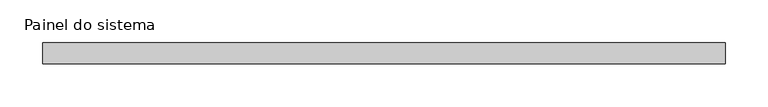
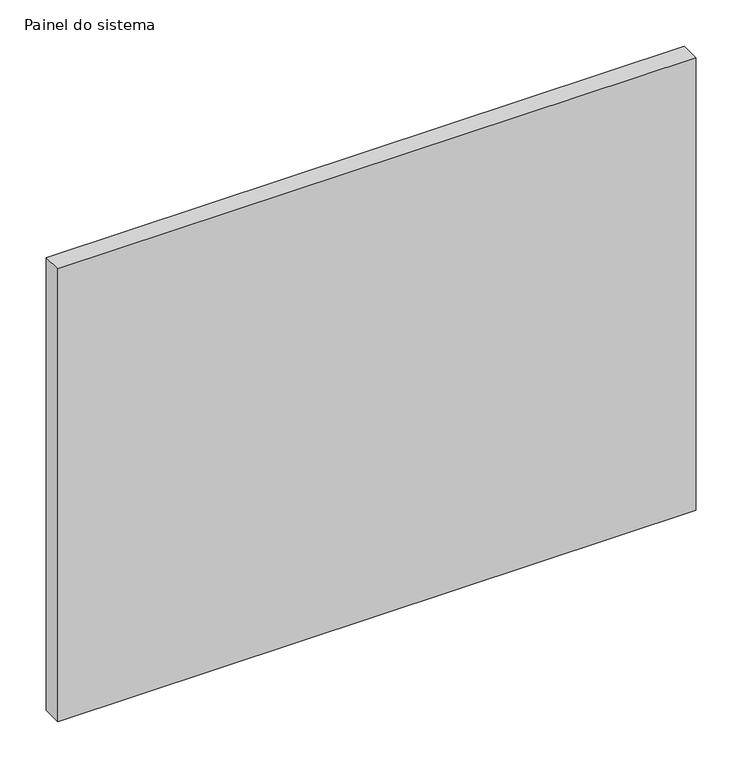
"""IFC4 building model written with IfcOpenShell, lengths in millimetres: plate geometry, Painel do sistema : Envidraçado."""

from ifc_helpers import new_model, si_unit, origin, origin_with_axes, place, context, project, spatial, polyline, outline, extrude, source, transform, mapped, element, save


def painel_do_sistema_5b3ee7ba(model_context):
    return source(origin(), model_context, "Body", "SweptSolid", [
        extrude(outline(polyline([(400.0, 24.5), (-400.0, 24.5), (-400.0, 49.5), (400.0, 49.5), (400.0, 24.5)])), origin_with_axes(), (0.0, 0.0, 1.0), 600.0),
    ])


if __name__ == "__main__":
    model = new_model("IFC4")
    model_context = context("Model", 3, world=origin())
    ifc_project = project(units=[si_unit("LENGTHUNIT", "METRE", prefix="MILLI")], contexts=[model_context])
    site = spatial("IfcSite", under=ifc_project)
    building = spatial("IfcBuilding", under=site)
    placement = place(None, origin())
    painel_do_sistema_shape = painel_do_sistema_5b3ee7ba(model_context)
    element("IfcPlate", 1, ObjectType="Painel do sistema : Envidraçado", at=placement, inside=building, context=model_context, shape_type="MappedRepresentation", body=[
        mapped(painel_do_sistema_shape, transform((0.0, 0.0, 0.0), x_axis=(1.0, 0.0, 0.0), y_axis=(0.0, 1.0, 0.0), z_axis=(0.0, 0.0, 1.0))),
    ])
    save(model, "model.ifc")
